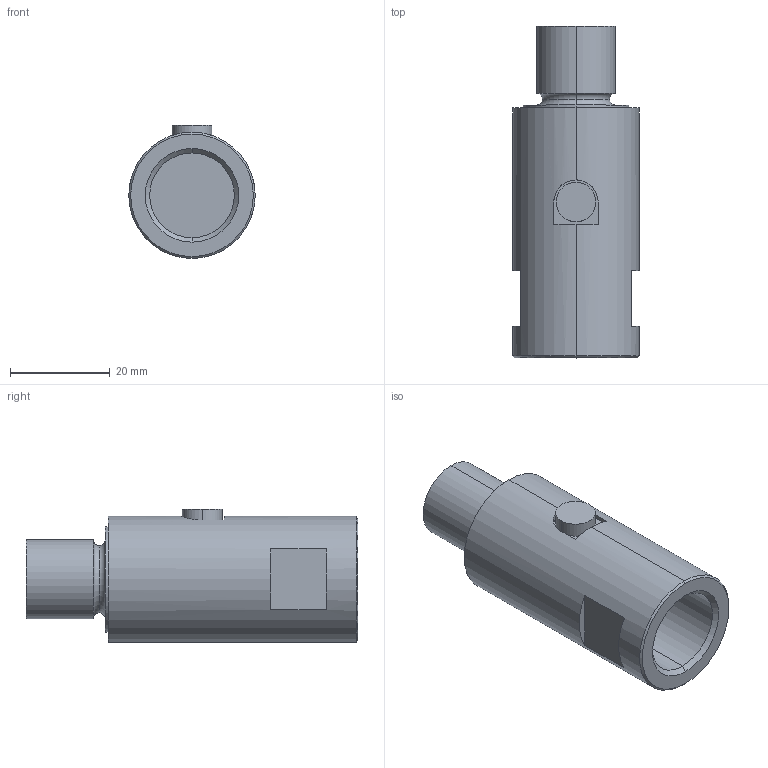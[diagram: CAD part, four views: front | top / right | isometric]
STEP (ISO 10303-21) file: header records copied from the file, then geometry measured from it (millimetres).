
FILE_DESCRIPTION (( 'STEP AP214' ), '1' );
FILE_NAME ('FINAL ASBY SS1693-500LB.STEP', '2024-08-12T15:11:01', ( '' ), ( '' ), 'SwSTEP 2.0', 'SolidWorks 2008', '' );
FILE_SCHEMA (( 'AUTOMOTIVE_DESIGN' ));
Length unit declared in the file: inch
Products named in the file (1): FINAL ASBY SS1693-500LB
Bounding box: 25.4 x 66.67 x 26.73 mm (x, y, z)
Volume: 22639.4 mm3; surface area: 7362.2 mm2
Topology: 1 solids, 1 shells, 35 faces, 73 edges, 46 vertices
Faces by surface type: plane 16, cylinder 11, torus 4, cone 4
Entity records: 1001 total; most frequent: CARTESIAN_POINT 191, DIRECTION 182, ORIENTED_EDGE 146, AXIS2_PLACEMENT_3D 75, EDGE_CURVE 73, VERTEX_POINT 46, EDGE_LOOP 41, CIRCLE 39
